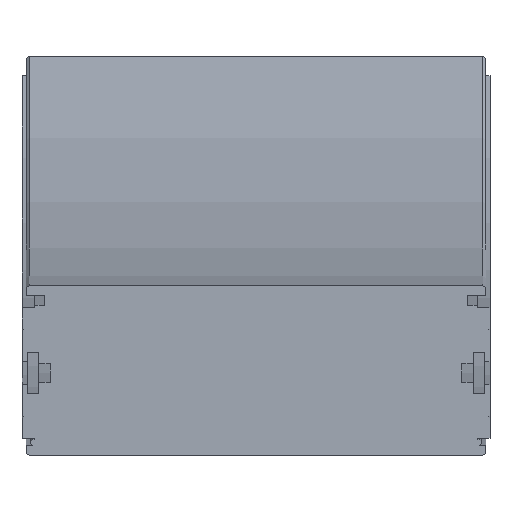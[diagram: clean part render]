
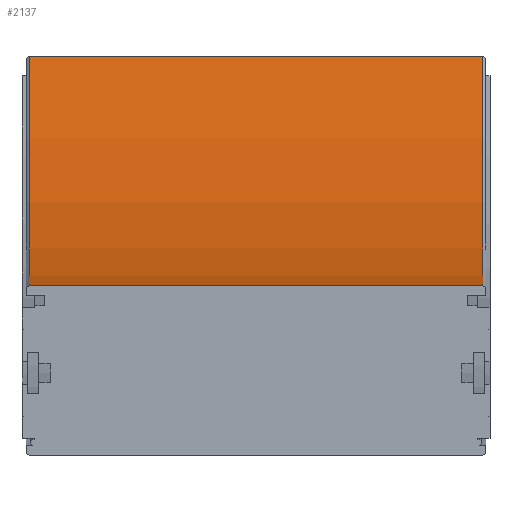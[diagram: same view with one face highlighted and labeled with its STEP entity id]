
A CAD part, front view. The second image highlights one B-rep face of the part: STEP entity #2137.
In plain terms, the highlighted cylindrical face has radius 818 mm (diameter 1636 mm), a partial arc.
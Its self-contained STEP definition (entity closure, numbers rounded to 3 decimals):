
#62=CYLINDRICAL_SURFACE('',#2337,818.);
#225=CIRCLE('',#2336,818.);
#226=CIRCLE('',#2338,818.);
#336=FACE_OUTER_BOUND('',#454,.T.);
#454=EDGE_LOOP('',(#1769,#1770,#1771,#1772));
#615=LINE('',#8201,#793);
#616=LINE('',#8203,#794);
#793=VECTOR('',#2838,10.);
#794=VECTOR('',#2839,10.);
#1005=VERTEX_POINT('',#8194);
#1006=VERTEX_POINT('',#8196);
#1007=VERTEX_POINT('',#8200);
#1008=VERTEX_POINT('',#8202);
#1304=EDGE_CURVE('',#1005,#1006,#225,.T.);
#1305=EDGE_CURVE('',#1007,#1005,#615,.T.);
#1306=EDGE_CURVE('',#1008,#1006,#616,.T.);
#1307=EDGE_CURVE('',#1007,#1008,#226,.T.);
#1769=ORIENTED_EDGE('',*,*,#1305,.T.);
#1770=ORIENTED_EDGE('',*,*,#1304,.T.);
#1771=ORIENTED_EDGE('',*,*,#1306,.F.);
#1772=ORIENTED_EDGE('',*,*,#1307,.F.);
#2137=ADVANCED_FACE('',(#336),#62,.F.);
#2336=AXIS2_PLACEMENT_3D('',#8198,#2834,#2835);
#2337=AXIS2_PLACEMENT_3D('',#8199,#2836,#2837);
#2338=AXIS2_PLACEMENT_3D('',#8204,#2840,#2841);
#2834=DIRECTION('center_axis',(1.,0.,0.));
#2835=DIRECTION('ref_axis',(0.,0.,-1.));
#2836=DIRECTION('center_axis',(1.,0.,0.));
#2837=DIRECTION('ref_axis',(0.,0.,-1.));
#2838=DIRECTION('',(1.,0.,0.));
#2839=DIRECTION('',(1.,0.,0.));
#2840=DIRECTION('center_axis',(1.,0.,0.));
#2841=DIRECTION('ref_axis',(0.,0.,-1.));
#8194=CARTESIAN_POINT('',(108.5,0.,42.));
#8196=CARTESIAN_POINT('',(108.5,409.,151.591));
#8198=CARTESIAN_POINT('Origin',(108.5,0.,860.));
#8199=CARTESIAN_POINT('Origin',(-54.25,0.,860.));
#8200=CARTESIAN_POINT('',(-108.5,0.,42.));
#8201=CARTESIAN_POINT('',(-108.5,0.,42.));
#8202=CARTESIAN_POINT('',(-108.5,409.,151.591));
#8203=CARTESIAN_POINT('',(-108.5,409.,151.591));
#8204=CARTESIAN_POINT('Origin',(-108.5,0.,860.));
